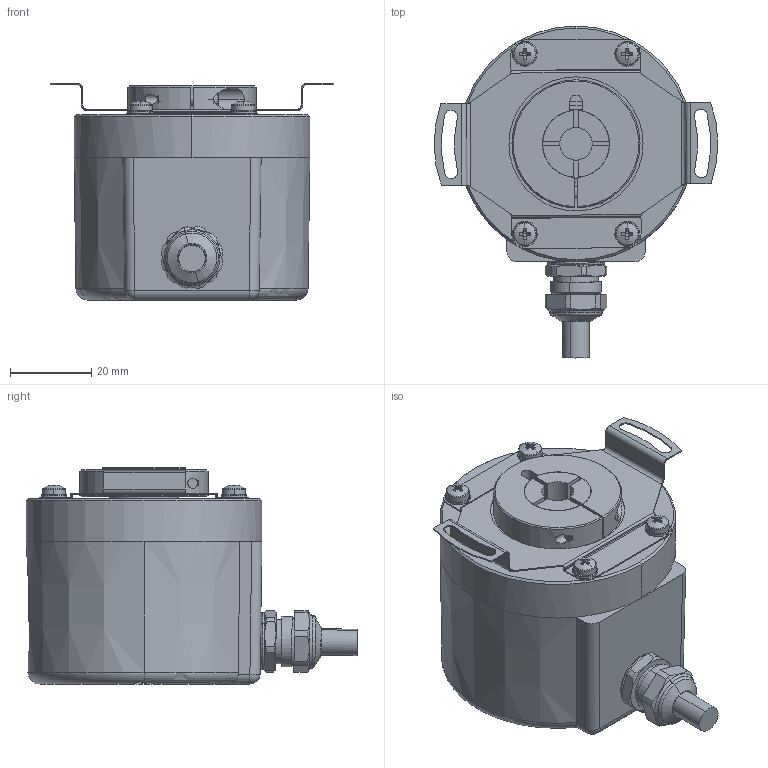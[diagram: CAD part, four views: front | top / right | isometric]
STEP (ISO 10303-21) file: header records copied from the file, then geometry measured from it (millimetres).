
FILE_DESCRIPTION (( 'STEP AP203' ), '1' );
FILE_NAME ('E58HM-SSI-332##.STEP', '2023-10-31T11:16:44', ( '' ), ( '' ), 'SwSTEP 2.0', 'SolidWorks 2021', '' );
FILE_SCHEMA (( 'CONFIG_CONTROL_DESIGN' ));
Length unit declared in the file: millimetre
Products named in the file (1): E58HM-SSI-332##
Bounding box: 69.8 x 81.61 x 53.4 mm (x, y, z)
Volume: 126089.3 mm3; surface area: 25268.1 mm2
Topology: 14 solids, 16 shells, 758 faces, 1837 edges, 1116 vertices
Faces by surface type: plane 373, cylinder 173, cone 118, torus 65, bspline 15, sphere 14
Entity records: 22980 total; most frequent: CARTESIAN_POINT 5259, DIRECTION 3813, ORIENTED_EDGE 3618, EDGE_CURVE 1809, AXIS2_PLACEMENT_3D 1484, VERTEX_POINT 1116, VECTOR 845, LINE 845
